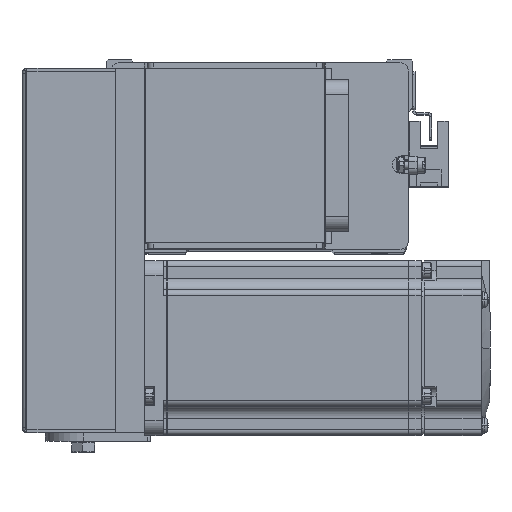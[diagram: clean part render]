
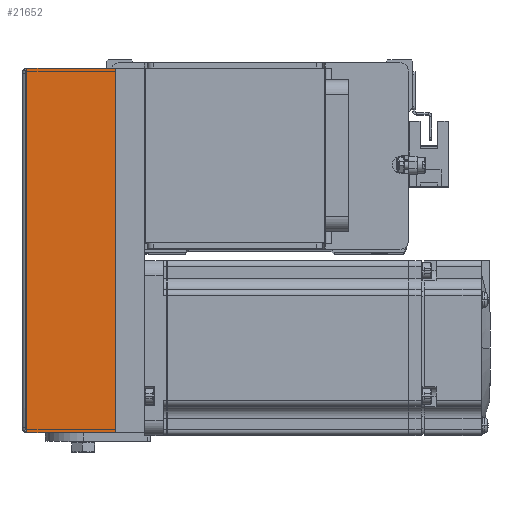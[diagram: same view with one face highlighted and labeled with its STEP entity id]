
A CAD part, top view. The second image highlights one B-rep face of the part: STEP entity #21652.
In plain terms, the highlighted planar face has unit normal (0, 0, 1) as drawn and (0, 0, -1) by its records, which use the part's own axes.
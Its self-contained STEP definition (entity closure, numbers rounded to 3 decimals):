
#1483 = LINE ( 'NONE', #26086, #10271 ) ;
#2831 = DIRECTION ( 'NONE',  ( 1., 0., 0. ) ) ;
#4024 = VERTEX_POINT ( 'NONE', #19722 ) ;
#4048 = CARTESIAN_POINT ( 'NONE',  ( -62.5, -30.3, -31. ) ) ;
#4231 = ORIENTED_EDGE ( 'NONE', *, *, #37642, .T. ) ;
#4300 = FACE_OUTER_BOUND ( 'NONE', #40971, .T. ) ;
#6513 = DIRECTION ( 'NONE',  ( 1., 0., 0. ) ) ;
#6521 = VERTEX_POINT ( 'NONE', #4048 ) ;
#7654 = LINE ( 'NONE', #14736, #31896 ) ;
#7868 = VERTEX_POINT ( 'NONE', #31301 ) ;
#10271 = VECTOR ( 'NONE', #36937, 1000. ) ;
#10805 = ORIENTED_EDGE ( 'NONE', *, *, #41196, .F. ) ;
#11210 = CARTESIAN_POINT ( 'NONE',  ( 62.5, -30.3, -31. ) ) ;
#14736 = CARTESIAN_POINT ( 'NONE',  ( -62.5, -30.3, -31. ) ) ;
#14761 = EDGE_CURVE ( 'NONE', #6521, #4024, #7654, .T. ) ;
#15164 = PLANE ( 'NONE',  #18131 ) ;
#15342 = VECTOR ( 'NONE', #2831, 1000. ) ;
#17993 = VECTOR ( 'NONE', #6513, 1000. ) ;
#18131 = AXIS2_PLACEMENT_3D ( 'NONE', #44480, #37127, #18706 ) ;
#18706 = DIRECTION ( 'NONE',  ( 0., 1., 0. ) ) ;
#19722 = CARTESIAN_POINT ( 'NONE',  ( -62.5, 0., -31. ) ) ;
#19950 = EDGE_CURVE ( 'NONE', #6521, #7868, #28241, .T. ) ;
#21652 = ADVANCED_FACE ( 'NONE', ( #4300 ), #15164, .F. ) ;
#22226 = ORIENTED_EDGE ( 'NONE', *, *, #19950, .F. ) ;
#25916 = VERTEX_POINT ( 'NONE', #39006 ) ;
#26086 = CARTESIAN_POINT ( 'NONE',  ( 62.5, -30.3, -31. ) ) ;
#28241 = LINE ( 'NONE', #11210, #17993 ) ;
#28338 = LINE ( 'NONE', #39186, #15342 ) ;
#31301 = CARTESIAN_POINT ( 'NONE',  ( 62.5, -30.3, -31. ) ) ;
#31896 = VECTOR ( 'NONE', #43822, 1000. ) ;
#35697 = ORIENTED_EDGE ( 'NONE', *, *, #14761, .T. ) ;
#36937 = DIRECTION ( 'NONE',  ( 0., 1., 0. ) ) ;
#37127 = DIRECTION ( 'NONE',  ( 0., 0., 1. ) ) ;
#37642 = EDGE_CURVE ( 'NONE', #4024, #25916, #28338, .T. ) ;
#39006 = CARTESIAN_POINT ( 'NONE',  ( 62.5, 0., -31. ) ) ;
#39186 = CARTESIAN_POINT ( 'NONE',  ( 0., 0., -31. ) ) ;
#40971 = EDGE_LOOP ( 'NONE', ( #22226, #35697, #4231, #10805 ) ) ;
#41196 = EDGE_CURVE ( 'NONE', #7868, #25916, #1483, .T. ) ;
#43822 = DIRECTION ( 'NONE',  ( 0., 1., 0. ) ) ;
#44480 = CARTESIAN_POINT ( 'NONE',  ( 0., -30.8, -31. ) ) ;
